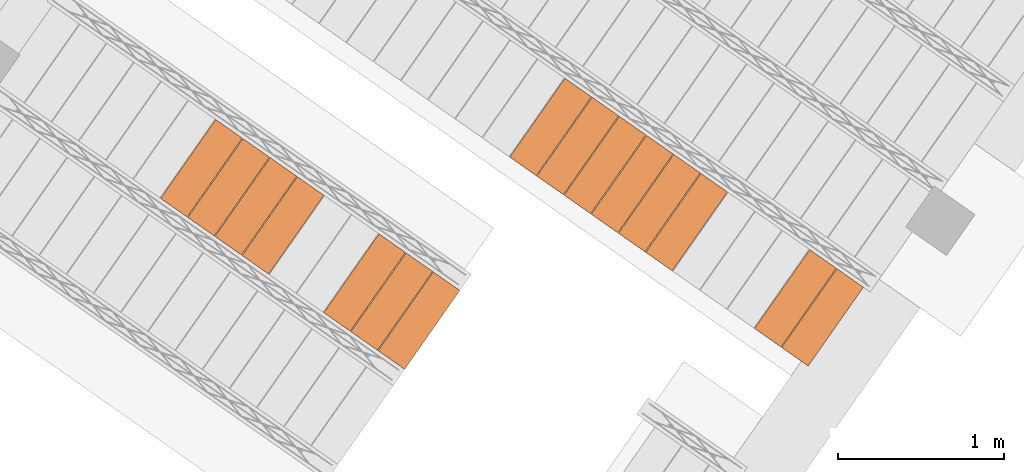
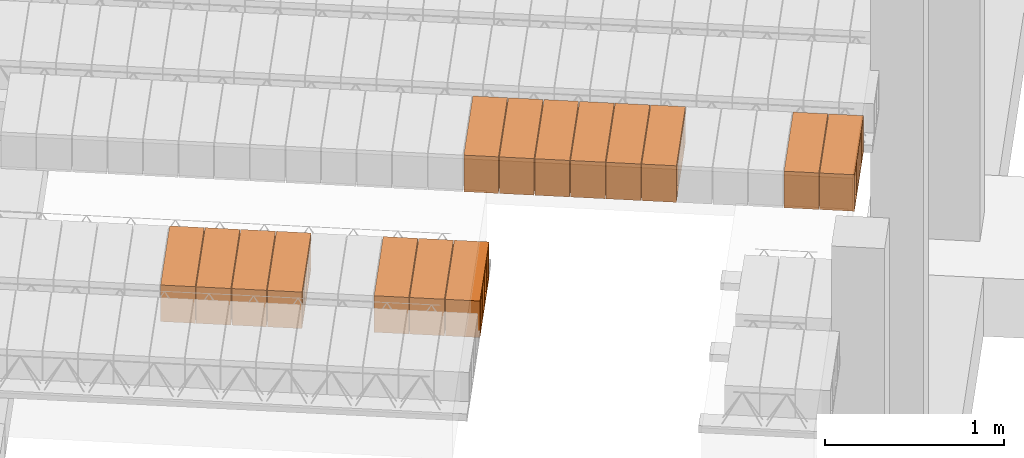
# One storey, part 55 of 80: 15 proxies.
"""IFC2X3 building model written with IfcOpenShell, lengths in metres."""

from ifc_helpers import new_model, entity, si_unit, converted_unit, derived_unit, direction, frame, origin, place, context, subcontext, project, spatial, polyline, outline, extrude, type_object, element, save


model = new_model("IFC2X3")

# Units and contexts
model_context = context("Model", 3, precision=1e-05, world=origin(), true_north=direction((6.123031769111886e-17, 1.0)))
body_context = subcontext(model_context, "Body", "Model", "MODEL_VIEW")
ifc_project = project(units=[si_unit("LENGTHUNIT", "METRE"), si_unit("AREAUNIT", "SQUARE_METRE"), si_unit("VOLUMEUNIT", "CUBIC_METRE"), converted_unit("PLANEANGLEUNIT", "DEGREE", entity("IfcPlaneAngleMeasure", 0.017453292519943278), si_unit("PLANEANGLEUNIT", "RADIAN"), dimensions=[0, 0, 0, 0, 0, 0, 0]), si_unit("MASSUNIT", "GRAM", prefix="KILO"), derived_unit("MASSDENSITYUNIT", [(si_unit("MASSUNIT", "GRAM", prefix="KILO"), 1), (si_unit("LENGTHUNIT", "METRE"), -3)]), derived_unit("IONCONCENTRATIONUNIT", [(si_unit("MASSUNIT", "GRAM", prefix="KILO"), 1), (si_unit("LENGTHUNIT", "METRE"), -3)]), derived_unit("MOMENTOFINERTIAUNIT", [(si_unit("LENGTHUNIT", "METRE"), 4)]), si_unit("TIMEUNIT", "SECOND"), si_unit("FREQUENCYUNIT", "HERTZ"), si_unit("THERMODYNAMICTEMPERATUREUNIT", "DEGREE_CELSIUS"), derived_unit("THERMALTRANSMITTANCEUNIT", [(si_unit("MASSUNIT", "GRAM", prefix="KILO"), 1), (si_unit("THERMODYNAMICTEMPERATUREUNIT", "KELVIN"), -1), (si_unit("TIMEUNIT", "SECOND"), -3)]), derived_unit("THERMALCONDUCTANCEUNIT", [(si_unit("MASSUNIT", "GRAM", prefix="KILO"), 1), (si_unit("THERMODYNAMICTEMPERATUREUNIT", "KELVIN"), -1), (si_unit("TIMEUNIT", "SECOND"), -3), (si_unit("LENGTHUNIT", "METRE"), 1)]), derived_unit("VOLUMETRICFLOWRATEUNIT", [(si_unit("LENGTHUNIT", "METRE", prefix="DECI"), 3), (si_unit("TIMEUNIT", "SECOND"), -1)]), derived_unit("MASSFLOWRATEUNIT", [(si_unit("MASSUNIT", "GRAM", prefix="KILO"), 1), (si_unit("TIMEUNIT", "SECOND"), -1)]), derived_unit("ROTATIONALFREQUENCYUNIT", [(si_unit("TIMEUNIT", "SECOND"), -1)]), si_unit("ELECTRICCURRENTUNIT", "AMPERE"), si_unit("ELECTRICVOLTAGEUNIT", "VOLT"), si_unit("POWERUNIT", "WATT"), si_unit("FORCEUNIT", "NEWTON", prefix="KILO"), si_unit("ILLUMINANCEUNIT", "LUX"), si_unit("LUMINOUSFLUXUNIT", "LUMEN"), si_unit("LUMINOUSINTENSITYUNIT", "CANDELA"), si_unit("ENERGYUNIT", "JOULE"), derived_unit("USERDEFINED", [(si_unit("MASSUNIT", "GRAM", prefix="KILO"), -1), (si_unit("LENGTHUNIT", "METRE"), -2), (si_unit("TIMEUNIT", "SECOND"), 3), (si_unit("LUMINOUSFLUXUNIT", "LUMEN"), 1)]), derived_unit("USERDEFINED", [(si_unit("MASSUNIT", "GRAM", prefix="KILO"), 1), (si_unit("TIMEUNIT", "SECOND"), -3), (si_unit("LENGTHUNIT", "METRE"), 3), (si_unit("ELECTRICCURRENTUNIT", "AMPERE"), -2)]), derived_unit("SOUNDPOWERUNIT", [(si_unit("MASSUNIT", "GRAM", prefix="KILO"), 1), (si_unit("TIMEUNIT", "SECOND"), -3), (si_unit("LENGTHUNIT", "METRE"), 2)]), derived_unit("SOUNDPRESSUREUNIT", [(si_unit("MASSUNIT", "GRAM", prefix="KILO"), 1), (si_unit("LENGTHUNIT", "METRE"), -1), (si_unit("TIMEUNIT", "SECOND"), -2)]), derived_unit("LINEARVELOCITYUNIT", [(si_unit("LENGTHUNIT", "METRE"), 1), (si_unit("TIMEUNIT", "SECOND"), -1)]), si_unit("PRESSUREUNIT", "PASCAL"), derived_unit("USERDEFINED", [(si_unit("MASSUNIT", "GRAM", prefix="KILO"), 1), (si_unit("LENGTHUNIT", "METRE"), -2), (si_unit("TIMEUNIT", "SECOND"), -2)]), derived_unit("LINEARFORCEUNIT", [(si_unit("MASSUNIT", "GRAM", prefix="KILO"), 1), (si_unit("TIMEUNIT", "SECOND"), -2)]), derived_unit("PLANARFORCEUNIT", [(si_unit("MASSUNIT", "GRAM", prefix="KILO"), 1), (si_unit("LENGTHUNIT", "METRE"), -1), (si_unit("TIMEUNIT", "SECOND"), -2)]), derived_unit("SPECIFICHEATCAPACITYUNIT", [(si_unit("THERMODYNAMICTEMPERATUREUNIT", "KELVIN"), -1), (si_unit("LENGTHUNIT", "METRE"), 2), (si_unit("TIMEUNIT", "SECOND"), -2)]), derived_unit("HEATFLUXDENSITYUNIT", [(si_unit("MASSUNIT", "GRAM", prefix="KILO"), 1), (si_unit("TIMEUNIT", "SECOND"), -3)]), derived_unit("HEATINGVALUEUNIT", [(si_unit("LENGTHUNIT", "METRE"), 2), (si_unit("TIMEUNIT", "SECOND"), -2)]), derived_unit("VAPORPERMEABILITYUNIT", [(si_unit("LENGTHUNIT", "METRE"), -1), (si_unit("TIMEUNIT", "SECOND"), 1)]), derived_unit("DYNAMICVISCOSITYUNIT", [(si_unit("MASSUNIT", "GRAM", prefix="KILO"), 1), (si_unit("TIMEUNIT", "SECOND"), -1), (si_unit("LENGTHUNIT", "METRE"), -1)]), derived_unit("THERMALEXPANSIONCOEFFICIENTUNIT", [(si_unit("THERMODYNAMICTEMPERATUREUNIT", "KELVIN"), -1)]), derived_unit("MODULUSOFELASTICITYUNIT", [(si_unit("MASSUNIT", "GRAM", prefix="KILO"), 1), (si_unit("LENGTHUNIT", "METRE"), -1), (si_unit("TIMEUNIT", "SECOND"), -2)]), derived_unit("ISOTHERMALMOISTURECAPACITYUNIT", [(si_unit("MASSUNIT", "GRAM", prefix="KILO"), -1), (si_unit("LENGTHUNIT", "METRE"), 3)]), derived_unit("MOISTUREDIFFUSIVITYUNIT", [(si_unit("TIMEUNIT", "SECOND"), -1), (si_unit("LENGTHUNIT", "METRE"), 2)]), derived_unit("MASSPERLENGTHUNIT", [(si_unit("MASSUNIT", "GRAM", prefix="KILO"), 1), (si_unit("LENGTHUNIT", "METRE"), -1)]), derived_unit("THERMALRESISTANCEUNIT", [(si_unit("MASSUNIT", "GRAM", prefix="KILO"), -1), (si_unit("TIMEUNIT", "SECOND"), 3), (si_unit("THERMODYNAMICTEMPERATUREUNIT", "KELVIN"), 1)]), derived_unit("ACCELERATIONUNIT", [(si_unit("LENGTHUNIT", "METRE"), 1), (si_unit("TIMEUNIT", "SECOND"), -2)]), derived_unit("ANGULARVELOCITYUNIT", [(si_unit("TIMEUNIT", "SECOND"), -1), (si_unit("PLANEANGLEUNIT", "RADIAN"), 1)]), derived_unit("LINEARSTIFFNESSUNIT", [(si_unit("MASSUNIT", "GRAM", prefix="KILO"), 1), (si_unit("TIMEUNIT", "SECOND"), -2)]), derived_unit("WARPINGCONSTANTUNIT", [(si_unit("LENGTHUNIT", "METRE"), 6)]), derived_unit("LINEARMOMENTUNIT", [(si_unit("MASSUNIT", "GRAM", prefix="KILO"), 1), (si_unit("LENGTHUNIT", "METRE"), 1), (si_unit("TIMEUNIT", "SECOND"), -2)]), derived_unit("TORQUEUNIT", [(si_unit("MASSUNIT", "GRAM", prefix="KILO"), 1), (si_unit("LENGTHUNIT", "METRE"), 2), (si_unit("TIMEUNIT", "SECOND"), -2)])], contexts=[model_context])

# Site, building, storey
site_placement = place(None, origin())
site = spatial("IfcSite", under=ifc_project, at=site_placement, Name="Default", CompositionType="ELEMENT")
building_placement = place(site_placement, origin())
building = spatial("IfcBuilding", under=site, at=building_placement, CompositionType="ELEMENT")
storey_placement = place(building_placement, frame((0.0, 0.0, 95.94)))
storey = spatial("IfcBuildingStorey", under=building, at=storey_placement, Name="PB", CompositionType="ELEMENT", Elevation=95.94)

# Proxies
building_element_proxy_type_1 = type_object("IfcBuildingElementProxyType", Name="Bovedilla 0-1 (Paño 6)", PredefinedType="USERDEFINED")
proxy_1_placement = place(storey_placement, origin())
element("IfcBuildingElementProxy", 1, at=proxy_1_placement, inside=storey, type_object=building_element_proxy_type_1, Name="Bovedilla 0-1 (Paño 6)", ObjectType="FORM", context=body_context, shape_type="SweptSolid", body=[
    extrude(outline(polyline([(-0.28999999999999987, -0.12500000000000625), (0.2899999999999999, -0.12500000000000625), (0.2899999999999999, 0.12500000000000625), (-0.28999999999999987, 0.12500000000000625), (-0.28999999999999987, -0.12500000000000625)]), holes=[polyline([(0.2700000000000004, -0.10499999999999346), (0.15499999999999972, -0.10499999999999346), (0.15499999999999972, 0.10499999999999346), (0.2700000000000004, 0.10499999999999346), (0.2700000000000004, 0.042499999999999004), (0.2700000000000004, -0.10499999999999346)]), polyline([(0.009999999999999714, -0.10499999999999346), (0.009999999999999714, 0.10499999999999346), (0.13500000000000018, 0.10499999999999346), (0.13500000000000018, -0.10499999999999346), (0.009999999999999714, -0.10499999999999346)]), polyline([(-0.13500000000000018, 0.10499999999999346), (-0.009999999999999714, 0.10499999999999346), (-0.009999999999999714, -0.10499999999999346), (-0.13500000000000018, -0.10499999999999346), (-0.13500000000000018, 0.10499999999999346)]), polyline([(-0.27000000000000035, -0.10499999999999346), (-0.27000000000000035, 0.042499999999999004), (-0.27000000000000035, 0.10499999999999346), (-0.15499999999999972, 0.10499999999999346), (-0.15499999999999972, -0.10499999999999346), (-0.27000000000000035, -0.10499999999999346)])]), frame((7.108195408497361, 0.7735911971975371, 3.4050000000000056), z_axis=(0.8191520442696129, -0.5735764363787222, 0.0), x_axis=(-0.5735764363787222, -0.8191520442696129, 0.0)), (0.0, 0.0, 1.0), 0.19499999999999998),
])
building_element_proxy_type_2 = type_object("IfcBuildingElementProxyType", Name="Bovedilla 0-2 (Paño 6)", PredefinedType="USERDEFINED")
proxy_2_placement = place(storey_placement, origin())
element("IfcBuildingElementProxy", 2, at=proxy_2_placement, inside=storey, type_object=building_element_proxy_type_2, Name="Bovedilla 0-2 (Paño 6)", ObjectType="FORM", context=body_context, shape_type="SweptSolid", body=[
    extrude(outline(polyline([(-0.28999999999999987, -0.12500000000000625), (0.28999999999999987, -0.12500000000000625), (0.28999999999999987, 0.12500000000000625), (-0.28999999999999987, 0.12500000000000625), (-0.28999999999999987, -0.12500000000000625)]), holes=[polyline([(0.27000000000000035, -0.10499999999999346), (0.1549999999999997, -0.10499999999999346), (0.1549999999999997, 0.10499999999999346), (0.27000000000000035, 0.10499999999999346), (0.27000000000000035, 0.042499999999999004), (0.27000000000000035, -0.10499999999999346)]), polyline([(0.009999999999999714, -0.10499999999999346), (0.009999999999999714, 0.10499999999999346), (0.13500000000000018, 0.10499999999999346), (0.13500000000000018, -0.10499999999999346), (0.009999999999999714, -0.10499999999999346)]), polyline([(-0.13500000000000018, 0.10499999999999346), (-0.009999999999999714, 0.10499999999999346), (-0.009999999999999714, -0.10499999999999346), (-0.13500000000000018, -0.10499999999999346), (-0.13500000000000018, 0.10499999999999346)]), polyline([(-0.27000000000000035, -0.10499999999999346), (-0.27000000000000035, 0.042499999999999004), (-0.27000000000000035, 0.10499999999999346), (-0.1549999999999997, 0.10499999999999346), (-0.1549999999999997, -0.10499999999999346), (-0.27000000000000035, -0.10499999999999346)])]), frame((6.944364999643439, 0.8883064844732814, 3.4050000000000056), z_axis=(0.8191520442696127, -0.5735764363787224, 0.0), x_axis=(-0.5735764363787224, -0.8191520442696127, 0.0)), (0.0, 0.0, 1.0), 0.19499999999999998),
])
building_element_proxy_type_3 = type_object("IfcBuildingElementProxyType", Name="Bovedilla 0-6 (Paño 6)", PredefinedType="USERDEFINED")
proxy_3_placement = place(storey_placement, origin())
element("IfcBuildingElementProxy", 3, at=proxy_3_placement, inside=storey, type_object=building_element_proxy_type_3, Name="Bovedilla 0-6 (Paño 6)", ObjectType="FORM", context=body_context, shape_type="SweptSolid", body=[
    extrude(outline(polyline([(-0.29, -0.12500000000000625), (0.29, -0.12500000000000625), (0.29, 0.12500000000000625), (-0.29, 0.12500000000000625), (-0.29, -0.12500000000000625)]), holes=[polyline([(0.27000000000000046, -0.10499999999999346), (0.15499999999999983, -0.10499999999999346), (0.15499999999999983, 0.10499999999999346), (0.27000000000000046, 0.10499999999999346), (0.27000000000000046, 0.042499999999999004), (0.27000000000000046, -0.10499999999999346)]), polyline([(0.009999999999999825, -0.10499999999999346), (0.009999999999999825, 0.10499999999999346), (0.13500000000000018, 0.10499999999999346), (0.13500000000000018, -0.10499999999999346), (0.009999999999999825, -0.10499999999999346)]), polyline([(-0.13500000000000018, 0.10499999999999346), (-0.009999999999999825, 0.10499999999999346), (-0.009999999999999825, -0.10499999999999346), (-0.13500000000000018, -0.10499999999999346), (-0.13500000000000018, 0.10499999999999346)]), polyline([(-0.27000000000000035, -0.10499999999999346), (-0.27000000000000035, 0.042499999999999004), (-0.27000000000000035, 0.10499999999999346), (-0.15499999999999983, 0.10499999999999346), (-0.15499999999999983, -0.10499999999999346), (-0.27000000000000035, -0.10499999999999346)])]), frame((6.28904336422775, 1.3471676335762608, 3.4050000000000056), z_axis=(0.819152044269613, -0.5735764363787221, 0.0), x_axis=(-0.5735764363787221, -0.819152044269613, 0.0)), (0.0, 0.0, 1.0), 0.19499999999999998),
])
building_element_proxy_type_4 = type_object("IfcBuildingElementProxyType", Name="Bovedilla 0-7 (Paño 6)", PredefinedType="USERDEFINED")
proxy_4_placement = place(storey_placement, origin())
element("IfcBuildingElementProxy", 4, at=proxy_4_placement, inside=storey, type_object=building_element_proxy_type_4, Name="Bovedilla 0-7 (Paño 6)", ObjectType="FORM", context=body_context, shape_type="SweptSolid", body=[
    extrude(outline(polyline([(-0.29, -0.12500000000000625), (0.29, -0.12500000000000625), (0.29, 0.12500000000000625), (-0.29, 0.12500000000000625), (-0.29, -0.12500000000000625)]), holes=[polyline([(0.27000000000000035, -0.10499999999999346), (0.15499999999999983, -0.10499999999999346), (0.15499999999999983, 0.10499999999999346), (0.27000000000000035, 0.10499999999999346), (0.27000000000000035, 0.042499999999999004), (0.27000000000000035, -0.10499999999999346)]), polyline([(0.009999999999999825, -0.10499999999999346), (0.009999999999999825, 0.10499999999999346), (0.13500000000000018, 0.10499999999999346), (0.13500000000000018, -0.10499999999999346), (0.009999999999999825, -0.10499999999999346)]), polyline([(-0.13500000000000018, 0.10499999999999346), (-0.009999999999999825, 0.10499999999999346), (-0.009999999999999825, -0.10499999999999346), (-0.13500000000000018, -0.10499999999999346), (-0.13500000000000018, 0.10499999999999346)]), polyline([(-0.27000000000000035, -0.10499999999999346), (-0.27000000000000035, 0.042499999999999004), (-0.27000000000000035, 0.10499999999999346), (-0.15499999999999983, 0.10499999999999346), (-0.15499999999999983, -0.10499999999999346), (-0.27000000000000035, -0.10499999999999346)])]), frame((6.125212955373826, 1.461882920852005, 3.4050000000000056), z_axis=(0.819152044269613, -0.5735764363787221, 0.0), x_axis=(-0.5735764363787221, -0.819152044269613, 0.0)), (0.0, 0.0, 1.0), 0.19499999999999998),
])
building_element_proxy_type_5 = type_object("IfcBuildingElementProxyType", Name="Bovedilla 0-8 (Paño 6)", PredefinedType="USERDEFINED")
proxy_5_placement = place(storey_placement, origin())
element("IfcBuildingElementProxy", 5, at=proxy_5_placement, inside=storey, type_object=building_element_proxy_type_5, Name="Bovedilla 0-8 (Paño 6)", ObjectType="FORM", context=body_context, shape_type="SweptSolid", body=[
    extrude(outline(polyline([(-0.29, -0.12500000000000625), (0.29, -0.12500000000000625), (0.29, 0.12500000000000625), (-0.29, 0.12500000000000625), (-0.29, -0.12500000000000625)]), holes=[polyline([(0.27000000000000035, -0.10499999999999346), (0.15499999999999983, -0.10499999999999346), (0.15499999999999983, 0.10499999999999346), (0.27000000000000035, 0.10499999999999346), (0.27000000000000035, 0.042499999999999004), (0.27000000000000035, -0.10499999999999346)]), polyline([(0.009999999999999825, -0.10499999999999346), (0.009999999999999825, 0.10499999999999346), (0.13500000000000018, 0.10499999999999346), (0.13500000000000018, -0.10499999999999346), (0.009999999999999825, -0.10499999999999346)]), polyline([(-0.13500000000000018, 0.10499999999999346), (-0.009999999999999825, 0.10499999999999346), (-0.009999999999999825, -0.10499999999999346), (-0.13500000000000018, -0.10499999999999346), (-0.13500000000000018, 0.10499999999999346)]), polyline([(-0.27000000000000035, -0.10499999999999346), (-0.27000000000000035, 0.042499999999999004), (-0.27000000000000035, 0.10499999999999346), (-0.15499999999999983, 0.10499999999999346), (-0.15499999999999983, -0.10499999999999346), (-0.27000000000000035, -0.10499999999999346)])]), frame((5.961382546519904, 1.5765982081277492, 3.4050000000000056), z_axis=(0.819152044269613, -0.5735764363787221, 0.0), x_axis=(-0.5735764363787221, -0.819152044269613, 0.0)), (0.0, 0.0, 1.0), 0.19499999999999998),
])
building_element_proxy_type_6 = type_object("IfcBuildingElementProxyType", Name="Bovedilla 0-9 (Paño 6)", PredefinedType="USERDEFINED")
proxy_6_placement = place(storey_placement, origin())
element("IfcBuildingElementProxy", 6, at=proxy_6_placement, inside=storey, type_object=building_element_proxy_type_6, Name="Bovedilla 0-9 (Paño 6)", ObjectType="FORM", context=body_context, shape_type="SweptSolid", body=[
    extrude(outline(polyline([(-0.29, -0.12500000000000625), (0.29, -0.12500000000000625), (0.29, 0.12500000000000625), (-0.29, 0.12500000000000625), (-0.29, -0.12500000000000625)]), holes=[polyline([(0.27000000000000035, -0.10499999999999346), (0.15499999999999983, -0.10499999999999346), (0.15499999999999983, 0.10499999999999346), (0.27000000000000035, 0.10499999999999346), (0.27000000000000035, 0.042499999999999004), (0.27000000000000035, -0.10499999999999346)]), polyline([(0.009999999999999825, -0.10499999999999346), (0.009999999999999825, 0.10499999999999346), (0.13500000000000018, 0.10499999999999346), (0.13500000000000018, -0.10499999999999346), (0.009999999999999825, -0.10499999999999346)]), polyline([(-0.13500000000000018, 0.10499999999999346), (-0.009999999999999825, 0.10499999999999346), (-0.009999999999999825, -0.10499999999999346), (-0.13500000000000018, -0.10499999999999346), (-0.13500000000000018, 0.10499999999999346)]), polyline([(-0.27000000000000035, -0.10499999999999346), (-0.27000000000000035, 0.042499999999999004), (-0.27000000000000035, 0.10499999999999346), (-0.15499999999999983, 0.10499999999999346), (-0.15499999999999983, -0.10499999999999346), (-0.27000000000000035, -0.10499999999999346)])]), frame((5.797552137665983, 1.6913134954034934, 3.4050000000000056), z_axis=(0.819152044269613, -0.5735764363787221, 0.0), x_axis=(-0.5735764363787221, -0.819152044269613, 0.0)), (0.0, 0.0, 1.0), 0.19499999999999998),
])
building_element_proxy_type_7 = type_object("IfcBuildingElementProxyType", Name="Bovedilla 0-10 (Paño 6)", PredefinedType="USERDEFINED")
proxy_7_placement = place(storey_placement, origin())
element("IfcBuildingElementProxy", 7, at=proxy_7_placement, inside=storey, type_object=building_element_proxy_type_7, Name="Bovedilla 0-10 (Paño 6)", ObjectType="FORM", context=body_context, shape_type="SweptSolid", body=[
    extrude(outline(polyline([(-0.29, -0.12500000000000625), (0.29, -0.12500000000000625), (0.29, 0.12500000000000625), (-0.29, 0.12500000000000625), (-0.29, -0.12500000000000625)]), holes=[polyline([(0.27000000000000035, -0.10499999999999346), (0.15499999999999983, -0.10499999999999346), (0.15499999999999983, 0.10499999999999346), (0.27000000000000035, 0.10499999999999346), (0.27000000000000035, 0.042499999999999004), (0.27000000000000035, -0.10499999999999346)]), polyline([(0.009999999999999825, -0.10499999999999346), (0.009999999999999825, 0.10499999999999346), (0.13500000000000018, 0.10499999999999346), (0.13500000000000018, -0.10499999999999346), (0.009999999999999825, -0.10499999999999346)]), polyline([(-0.13500000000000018, 0.10499999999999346), (-0.009999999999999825, 0.10499999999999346), (-0.009999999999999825, -0.10499999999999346), (-0.13500000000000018, -0.10499999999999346), (-0.13500000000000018, 0.10499999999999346)]), polyline([(-0.27000000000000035, -0.10499999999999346), (-0.27000000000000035, 0.042499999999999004), (-0.27000000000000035, 0.10499999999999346), (-0.15499999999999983, 0.10499999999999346), (-0.15499999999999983, -0.10499999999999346), (-0.27000000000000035, -0.10499999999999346)])]), frame((5.633721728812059, 1.8060287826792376, 3.4050000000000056), z_axis=(0.819152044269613, -0.5735764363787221, 0.0), x_axis=(-0.5735764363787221, -0.819152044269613, 0.0)), (0.0, 0.0, 1.0), 0.19499999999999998),
])
building_element_proxy_type_8 = type_object("IfcBuildingElementProxyType", Name="Bovedilla 0-11 (Paño 6)", PredefinedType="USERDEFINED")
proxy_8_placement = place(storey_placement, origin())
element("IfcBuildingElementProxy", 8, at=proxy_8_placement, inside=storey, type_object=building_element_proxy_type_8, Name="Bovedilla 0-11 (Paño 6)", ObjectType="FORM", context=body_context, shape_type="SweptSolid", body=[
    extrude(outline(polyline([(-0.29, -0.12500000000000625), (0.29, -0.12500000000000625), (0.29, 0.12500000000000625), (-0.29, 0.12500000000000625), (-0.29, -0.12500000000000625)]), holes=[polyline([(0.27000000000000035, -0.10499999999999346), (0.15499999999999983, -0.10499999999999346), (0.15499999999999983, 0.10499999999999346), (0.27000000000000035, 0.10499999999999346), (0.27000000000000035, 0.042499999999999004), (0.27000000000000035, -0.10499999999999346)]), polyline([(0.009999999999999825, -0.10499999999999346), (0.009999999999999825, 0.10499999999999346), (0.13500000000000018, 0.10499999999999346), (0.13500000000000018, -0.10499999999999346), (0.009999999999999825, -0.10499999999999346)]), polyline([(-0.13500000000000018, 0.10499999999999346), (-0.009999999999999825, 0.10499999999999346), (-0.009999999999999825, -0.10499999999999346), (-0.13500000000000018, -0.10499999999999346), (-0.13500000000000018, 0.10499999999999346)]), polyline([(-0.27000000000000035, -0.10499999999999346), (-0.27000000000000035, 0.042499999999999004), (-0.27000000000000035, 0.10499999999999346), (-0.15499999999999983, 0.10499999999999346), (-0.15499999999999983, -0.10499999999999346), (-0.27000000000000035, -0.10499999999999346)])]), frame((5.469891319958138, 1.9207440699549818, 3.4050000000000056), z_axis=(0.819152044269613, -0.5735764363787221, 0.0), x_axis=(-0.5735764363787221, -0.819152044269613, 0.0)), (0.0, 0.0, 1.0), 0.19499999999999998),
])
building_element_proxy_type_9 = type_object("IfcBuildingElementProxyType", Name="Bovedilla 2-1 (Paño 13)", PredefinedType="USERDEFINED")
proxy_9_placement = place(storey_placement, origin())
element("IfcBuildingElementProxy", 9, at=proxy_9_placement, inside=storey, type_object=building_element_proxy_type_9, Name="Bovedilla 2-1 (Paño 13)", ObjectType="FORM", context=body_context, shape_type="SweptSolid", body=[
    extrude(outline(polyline([(-0.28999999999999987, -0.12500000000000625), (0.2899999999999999, -0.12500000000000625), (0.2899999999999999, 0.12500000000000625), (-0.28999999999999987, 0.12500000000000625), (-0.28999999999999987, -0.12500000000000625)]), holes=[polyline([(0.2700000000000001, -0.10499999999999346), (0.15500000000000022, -0.10499999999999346), (0.15500000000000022, 0.10499999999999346), (0.2700000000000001, 0.10499999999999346), (0.2700000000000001, 0.042499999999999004), (0.2700000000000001, -0.10499999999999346)]), polyline([(0.009999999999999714, -0.10499999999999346), (0.009999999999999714, 0.10499999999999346), (0.13500000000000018, 0.10499999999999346), (0.13500000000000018, -0.10499999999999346), (0.009999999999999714, -0.10499999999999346)]), polyline([(-0.13500000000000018, 0.10499999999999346), (-0.009999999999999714, 0.10499999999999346), (-0.009999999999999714, -0.10499999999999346), (-0.13500000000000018, -0.10499999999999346), (-0.13500000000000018, 0.10499999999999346)]), polyline([(-0.27, -0.10499999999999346), (-0.27, 0.042499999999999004), (-0.27, 0.10499999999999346), (-0.15500000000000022, 0.10499999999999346), (-0.15500000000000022, -0.10499999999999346), (-0.27, -0.10499999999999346)])]), frame((4.676942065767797, 0.7540705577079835, 3.4050000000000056), z_axis=(0.8191520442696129, -0.5735764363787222, 0.0), x_axis=(-0.5735764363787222, -0.8191520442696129, 0.0)), (0.0, 0.0, 1.0), 0.19499999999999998),
])
building_element_proxy_type_10 = type_object("IfcBuildingElementProxyType", Name="Bovedilla 2-2 (Paño 13)", PredefinedType="USERDEFINED")
proxy_10_placement = place(storey_placement, origin())
element("IfcBuildingElementProxy", 10, at=proxy_10_placement, inside=storey, type_object=building_element_proxy_type_10, Name="Bovedilla 2-2 (Paño 13)", ObjectType="FORM", context=body_context, shape_type="SweptSolid", body=[
    extrude(outline(polyline([(-0.28999999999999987, -0.12500000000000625), (0.28999999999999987, -0.12500000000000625), (0.28999999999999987, 0.12500000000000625), (-0.28999999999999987, 0.12500000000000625), (-0.28999999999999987, -0.12500000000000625)]), holes=[polyline([(0.27000000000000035, -0.10499999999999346), (0.15500000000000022, -0.10499999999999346), (0.15500000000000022, 0.10499999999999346), (0.27000000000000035, 0.10499999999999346), (0.27000000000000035, 0.042499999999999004), (0.27000000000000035, -0.10499999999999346)]), polyline([(0.009999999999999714, -0.10499999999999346), (0.009999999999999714, 0.10499999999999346), (0.13500000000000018, 0.10499999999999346), (0.13500000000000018, -0.10499999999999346), (0.009999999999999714, -0.10499999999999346)]), polyline([(-0.13500000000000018, 0.10499999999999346), (-0.009999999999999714, 0.10499999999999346), (-0.009999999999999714, -0.10499999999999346), (-0.13500000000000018, -0.10499999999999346), (-0.13500000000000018, 0.10499999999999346)]), polyline([(-0.27000000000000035, -0.10499999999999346), (-0.27000000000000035, 0.042499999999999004), (-0.27000000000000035, 0.10499999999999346), (-0.15500000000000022, 0.10499999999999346), (-0.15500000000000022, -0.10499999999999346), (-0.27000000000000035, -0.10499999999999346)])]), frame((4.513111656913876, 0.8687858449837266, 3.4050000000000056), z_axis=(0.8191520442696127, -0.5735764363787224, 0.0), x_axis=(-0.5735764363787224, -0.8191520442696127, 0.0)), (0.0, 0.0, 1.0), 0.19499999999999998),
])
building_element_proxy_type_11 = type_object("IfcBuildingElementProxyType", Name="Bovedilla 2-3 (Paño 13)", PredefinedType="USERDEFINED")
proxy_11_placement = place(storey_placement, origin())
element("IfcBuildingElementProxy", 11, at=proxy_11_placement, inside=storey, type_object=building_element_proxy_type_11, Name="Bovedilla 2-3 (Paño 13)", ObjectType="FORM", context=body_context, shape_type="SweptSolid", body=[
    extrude(outline(polyline([(-0.28999999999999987, -0.12500000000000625), (0.28999999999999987, -0.12500000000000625), (0.28999999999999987, 0.12500000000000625), (-0.28999999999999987, 0.12500000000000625), (-0.28999999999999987, -0.12500000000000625)]), holes=[polyline([(0.27000000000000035, -0.10499999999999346), (0.15500000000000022, -0.10499999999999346), (0.15500000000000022, 0.10499999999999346), (0.27000000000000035, 0.10499999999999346), (0.27000000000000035, 0.042499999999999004), (0.27000000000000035, -0.10499999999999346)]), polyline([(0.009999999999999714, -0.10499999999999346), (0.009999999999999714, 0.10499999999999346), (0.13500000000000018, 0.10499999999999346), (0.13500000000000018, -0.10499999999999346), (0.009999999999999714, -0.10499999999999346)]), polyline([(-0.13500000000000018, 0.10499999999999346), (-0.009999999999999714, 0.10499999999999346), (-0.009999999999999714, -0.10499999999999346), (-0.13500000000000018, -0.10499999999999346), (-0.13500000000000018, 0.10499999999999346)]), polyline([(-0.27000000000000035, -0.10499999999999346), (-0.27000000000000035, 0.042499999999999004), (-0.27000000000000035, 0.10499999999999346), (-0.15500000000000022, 0.10499999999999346), (-0.15500000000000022, -0.10499999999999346), (-0.27000000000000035, -0.10499999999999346)])]), frame((4.349281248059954, 0.9835011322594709, 3.4050000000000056), z_axis=(0.8191520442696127, -0.5735764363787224, 0.0), x_axis=(-0.5735764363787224, -0.8191520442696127, 0.0)), (0.0, 0.0, 1.0), 0.19499999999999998),
])
building_element_proxy_type_12 = type_object("IfcBuildingElementProxyType", Name="Bovedilla 2-6 (Paño 13)", PredefinedType="USERDEFINED")
proxy_12_placement = place(storey_placement, origin())
element("IfcBuildingElementProxy", 12, at=proxy_12_placement, inside=storey, type_object=building_element_proxy_type_12, Name="Bovedilla 2-6 (Paño 13)", ObjectType="FORM", context=body_context, shape_type="SweptSolid", body=[
    extrude(outline(polyline([(-0.29, -0.12500000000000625), (0.29, -0.12500000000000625), (0.29, 0.12500000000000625), (-0.29, 0.12500000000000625), (-0.29, -0.12500000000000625)]), holes=[polyline([(0.27000000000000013, -0.10499999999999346), (0.15500000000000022, -0.10499999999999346), (0.15500000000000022, 0.10499999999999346), (0.27000000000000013, 0.10499999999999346), (0.27000000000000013, 0.042499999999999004), (0.27000000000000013, -0.10499999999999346)]), polyline([(0.009999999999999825, -0.10499999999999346), (0.009999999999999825, 0.10499999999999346), (0.1350000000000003, 0.10499999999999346), (0.1350000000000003, -0.10499999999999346), (0.009999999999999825, -0.10499999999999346)]), polyline([(-0.13500000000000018, 0.10499999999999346), (-0.009999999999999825, 0.10499999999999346), (-0.009999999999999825, -0.10499999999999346), (-0.13500000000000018, -0.10499999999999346), (-0.13500000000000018, 0.10499999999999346)]), polyline([(-0.27, -0.10499999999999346), (-0.27, 0.042499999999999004), (-0.27, 0.10499999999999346), (-0.15500000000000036, 0.10499999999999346), (-0.15500000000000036, -0.10499999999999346), (-0.27, -0.10499999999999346)])]), frame((3.8577900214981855, 1.327646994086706, 3.4050000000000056), z_axis=(0.819152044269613, -0.5735764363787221, 0.0), x_axis=(-0.5735764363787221, -0.819152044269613, 0.0)), (0.0, 0.0, 1.0), 0.19499999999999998),
])
building_element_proxy_type_13 = type_object("IfcBuildingElementProxyType", Name="Bovedilla 2-7 (Paño 13)", PredefinedType="USERDEFINED")
proxy_13_placement = place(storey_placement, origin())
element("IfcBuildingElementProxy", 13, at=proxy_13_placement, inside=storey, type_object=building_element_proxy_type_13, Name="Bovedilla 2-7 (Paño 13)", ObjectType="FORM", context=body_context, shape_type="SweptSolid", body=[
    extrude(outline(polyline([(-0.29, -0.12500000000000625), (0.29, -0.12500000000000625), (0.29, 0.12500000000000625), (-0.29, 0.12500000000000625), (-0.29, -0.12500000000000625)]), holes=[polyline([(0.27, -0.10499999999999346), (0.15500000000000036, -0.10499999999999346), (0.15500000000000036, 0.10499999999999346), (0.27, 0.10499999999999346), (0.27, 0.042499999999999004), (0.27, -0.10499999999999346)]), polyline([(0.009999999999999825, -0.10499999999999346), (0.009999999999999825, 0.10499999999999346), (0.13500000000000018, 0.10499999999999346), (0.13500000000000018, -0.10499999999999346), (0.009999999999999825, -0.10499999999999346)]), polyline([(-0.13500000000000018, 0.10499999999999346), (-0.009999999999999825, 0.10499999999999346), (-0.009999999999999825, -0.10499999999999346), (-0.13500000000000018, -0.10499999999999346), (-0.13500000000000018, 0.10499999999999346)]), polyline([(-0.27, -0.10499999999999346), (-0.27, 0.042499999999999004), (-0.27, 0.10499999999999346), (-0.15500000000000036, 0.10499999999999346), (-0.15500000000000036, -0.10499999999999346), (-0.27, -0.10499999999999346)])]), frame((3.693959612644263, 1.4423622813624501, 3.4050000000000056), z_axis=(0.819152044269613, -0.5735764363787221, 0.0), x_axis=(-0.5735764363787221, -0.819152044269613, 0.0)), (0.0, 0.0, 1.0), 0.19499999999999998),
])
building_element_proxy_type_14 = type_object("IfcBuildingElementProxyType", Name="Bovedilla 2-8 (Paño 13)", PredefinedType="USERDEFINED")
proxy_14_placement = place(storey_placement, origin())
element("IfcBuildingElementProxy", 14, at=proxy_14_placement, inside=storey, type_object=building_element_proxy_type_14, Name="Bovedilla 2-8 (Paño 13)", ObjectType="FORM", context=body_context, shape_type="SweptSolid", body=[
    extrude(outline(polyline([(-0.29, -0.12500000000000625), (0.29, -0.12500000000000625), (0.29, 0.12500000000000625), (-0.29, 0.12500000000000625), (-0.29, -0.12500000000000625)]), holes=[polyline([(0.27, -0.10499999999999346), (0.15500000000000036, -0.10499999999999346), (0.15500000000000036, 0.10499999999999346), (0.27, 0.10499999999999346), (0.27, 0.042499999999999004), (0.27, -0.10499999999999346)]), polyline([(0.009999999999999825, -0.10499999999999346), (0.009999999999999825, 0.10499999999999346), (0.13500000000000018, 0.10499999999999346), (0.13500000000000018, -0.10499999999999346), (0.009999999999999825, -0.10499999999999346)]), polyline([(-0.13500000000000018, 0.10499999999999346), (-0.009999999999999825, 0.10499999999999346), (-0.009999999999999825, -0.10499999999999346), (-0.13500000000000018, -0.10499999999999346), (-0.13500000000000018, 0.10499999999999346)]), polyline([(-0.27, -0.10499999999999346), (-0.27, 0.042499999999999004), (-0.27, 0.10499999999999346), (-0.15500000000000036, 0.10499999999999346), (-0.15500000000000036, -0.10499999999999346), (-0.27, -0.10499999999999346)])]), frame((3.5301292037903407, 1.5570775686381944, 3.4050000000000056), z_axis=(0.819152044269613, -0.5735764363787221, 0.0), x_axis=(-0.5735764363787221, -0.819152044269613, 0.0)), (0.0, 0.0, 1.0), 0.19499999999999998),
])
building_element_proxy_type_15 = type_object("IfcBuildingElementProxyType", Name="Bovedilla 2-9 (Paño 13)", PredefinedType="USERDEFINED")
proxy_15_placement = place(storey_placement, origin())
element("IfcBuildingElementProxy", 15, at=proxy_15_placement, inside=storey, type_object=building_element_proxy_type_15, Name="Bovedilla 2-9 (Paño 13)", ObjectType="FORM", context=body_context, shape_type="SweptSolid", body=[
    extrude(outline(polyline([(-0.29, -0.12500000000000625), (0.29, -0.12500000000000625), (0.29, 0.12500000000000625), (-0.29, 0.12500000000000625), (-0.29, -0.12500000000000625)]), holes=[polyline([(0.27, -0.10499999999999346), (0.15500000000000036, -0.10499999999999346), (0.15500000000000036, 0.10499999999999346), (0.27, 0.10499999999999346), (0.27, 0.042499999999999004), (0.27, -0.10499999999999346)]), polyline([(0.009999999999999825, -0.10499999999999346), (0.009999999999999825, 0.10499999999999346), (0.13500000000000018, 0.10499999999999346), (0.13500000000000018, -0.10499999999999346), (0.009999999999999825, -0.10499999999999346)]), polyline([(-0.13500000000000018, 0.10499999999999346), (-0.009999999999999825, 0.10499999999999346), (-0.009999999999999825, -0.10499999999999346), (-0.13500000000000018, -0.10499999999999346), (-0.13500000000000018, 0.10499999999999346)]), polyline([(-0.27, -0.10499999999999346), (-0.27, 0.042499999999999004), (-0.27, 0.10499999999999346), (-0.15500000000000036, 0.10499999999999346), (-0.15500000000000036, -0.10499999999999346), (-0.27, -0.10499999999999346)])]), frame((3.366298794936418, 1.6717928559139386, 3.4050000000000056), z_axis=(0.819152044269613, -0.5735764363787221, 0.0), x_axis=(-0.5735764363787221, -0.819152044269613, 0.0)), (0.0, 0.0, 1.0), 0.19499999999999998),
])

save(model, "model.ifc")
